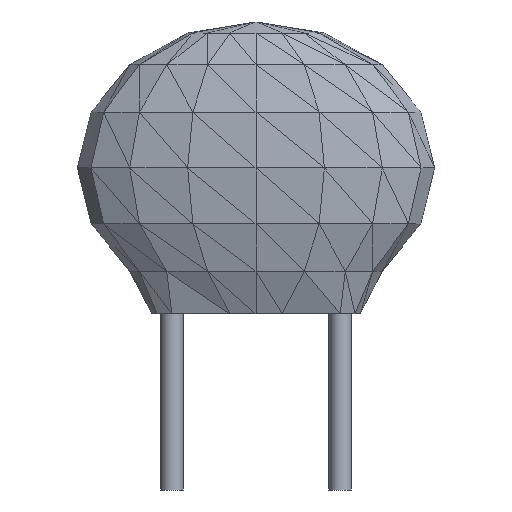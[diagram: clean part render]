
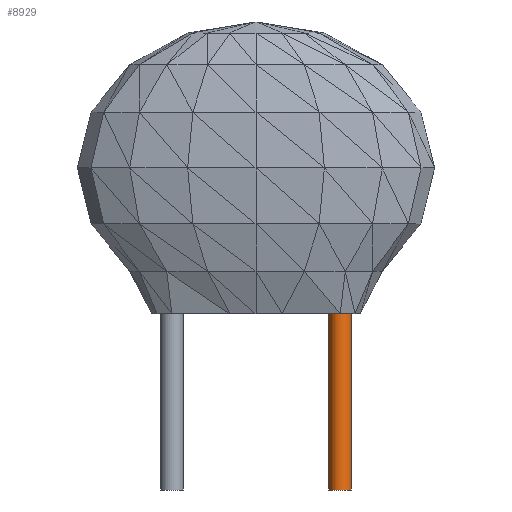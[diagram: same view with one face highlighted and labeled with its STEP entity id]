
A CAD part, front view. The second image highlights one B-rep face of the part: STEP entity #8929.
In plain terms, the highlighted cylindrical face has radius 0.254 mm (diameter 0.508 mm), a full revolution.
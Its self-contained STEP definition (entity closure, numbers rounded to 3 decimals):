
#8929=ADVANCED_FACE($,(#8935,#8934),#8952,.T.);
#8934=FACE_BOUND($,#8939,.T.);
#8935=FACE_OUTER_BOUND($,#8938,.T.);
#8938=EDGE_LOOP($,(#8948));
#8939=EDGE_LOOP($,(#8949));
#8942=CIRCLE($,#8955,0.254);
#8943=CIRCLE($,#8956,0.254);
#8944=VERTEX_POINT('',#8973);
#8945=VERTEX_POINT('',#8975);
#8946=EDGE_CURVE($,#8944,#8944,#8942,.T.);
#8947=EDGE_CURVE($,#8945,#8945,#8943,.T.);
#8948=ORIENTED_EDGE($,*,*,#8946,.F.);
#8949=ORIENTED_EDGE($,*,*,#8947,.F.);
#8952=CYLINDRICAL_SURFACE($,#8954,0.254);
#8954=AXIS2_PLACEMENT_3D($,#8972,#8961,#8962);
#8955=AXIS2_PLACEMENT_3D($,#8974,#8963,#8964);
#8956=AXIS2_PLACEMENT_3D($,#8976,#8965,#8966);
#8961=DIRECTION('',(0.,0.,1.));
#8962=DIRECTION('',(1.,0.,0.));
#8963=DIRECTION('',(0.,0.,1.));
#8964=DIRECTION('',(1.,0.,0.));
#8965=DIRECTION('',(0.,0.,-1.));
#8966=DIRECTION('',(1.,0.,0.));
#8972=CARTESIAN_POINT('',(3.81,0.0,-3.983));
#8973=CARTESIAN_POINT('',(3.556,0.0,0.081));
#8974=CARTESIAN_POINT('',(3.81,0.0,0.081));
#8975=CARTESIAN_POINT('',(3.556,0.0,-3.983));
#8976=CARTESIAN_POINT('',(3.81,0.0,-3.983));
